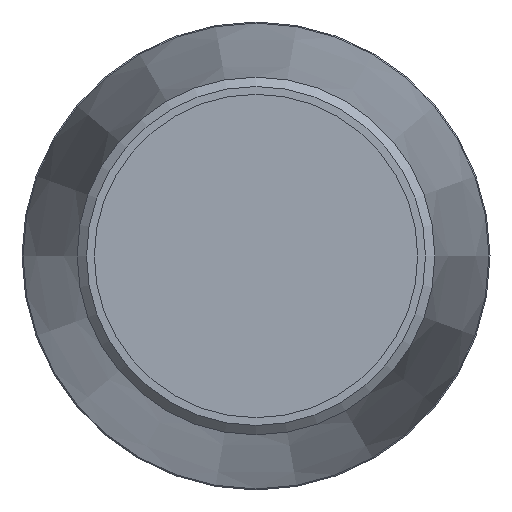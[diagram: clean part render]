
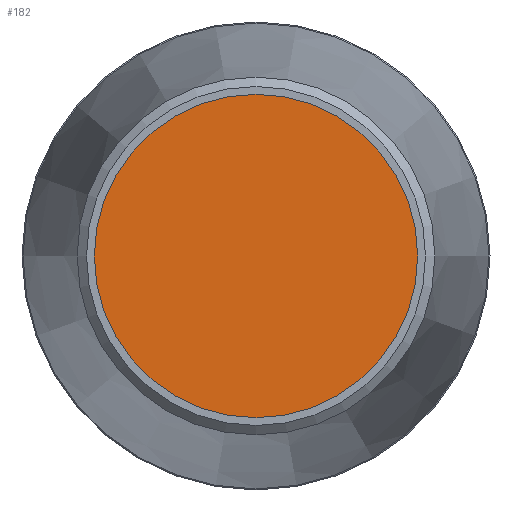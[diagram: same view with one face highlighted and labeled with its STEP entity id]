
A CAD part, left-side view. The second image highlights one B-rep face of the part: STEP entity #182.
In plain terms, the highlighted planar face has unit normal (-1, 0, 0).
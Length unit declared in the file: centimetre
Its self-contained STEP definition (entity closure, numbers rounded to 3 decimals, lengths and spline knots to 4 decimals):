
#20=PLANE('',#211);
#45=FACE_OUTER_BOUND('',#70,.T.);
#70=EDGE_LOOP('',(#140));
#88=CIRCLE('',#210,5.7);
#102=VERTEX_POINT('',#311);
#116=EDGE_CURVE('',#102,#102,#88,.T.);
#140=ORIENTED_EDGE('',*,*,#116,.T.);
#182=ADVANCED_FACE('',(#45),#20,.T.);
#210=AXIS2_PLACEMENT_3D('',#312,#263,#264);
#211=AXIS2_PLACEMENT_3D('',#313,#265,#266);
#263=DIRECTION('center_axis',(-1.,0.,0.));
#264=DIRECTION('ref_axis',(0.,0.,1.));
#265=DIRECTION('center_axis',(-1.,0.,0.));
#266=DIRECTION('ref_axis',(0.,0.,1.));
#311=CARTESIAN_POINT('',(-33.4,-5.7,0.));
#312=CARTESIAN_POINT('Origin',(-33.4,0.,0.));
#313=CARTESIAN_POINT('Origin',(-33.4,0.,0.));
